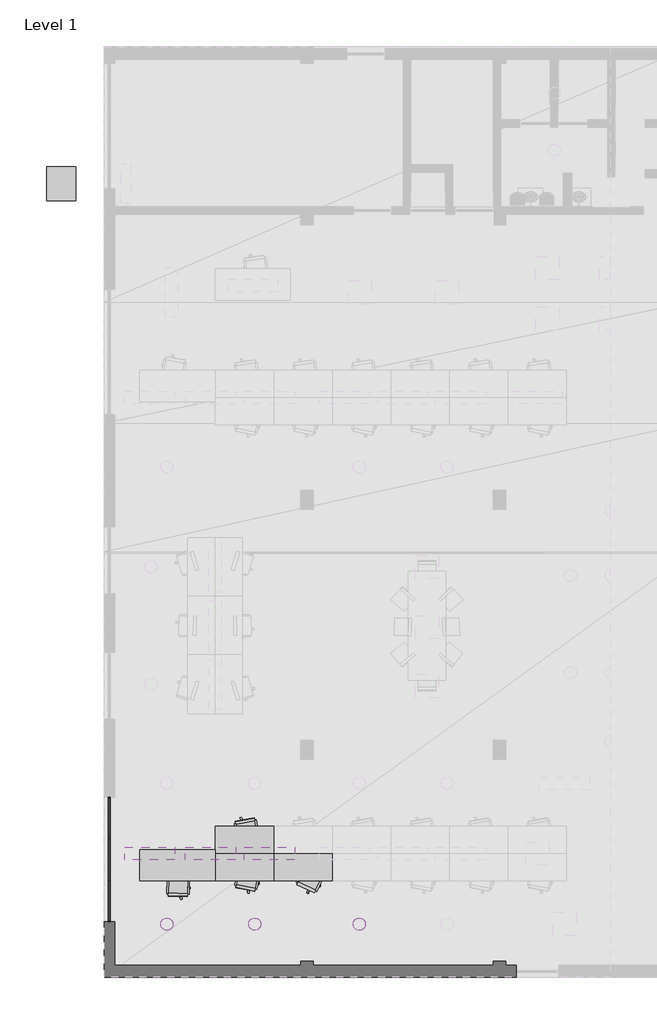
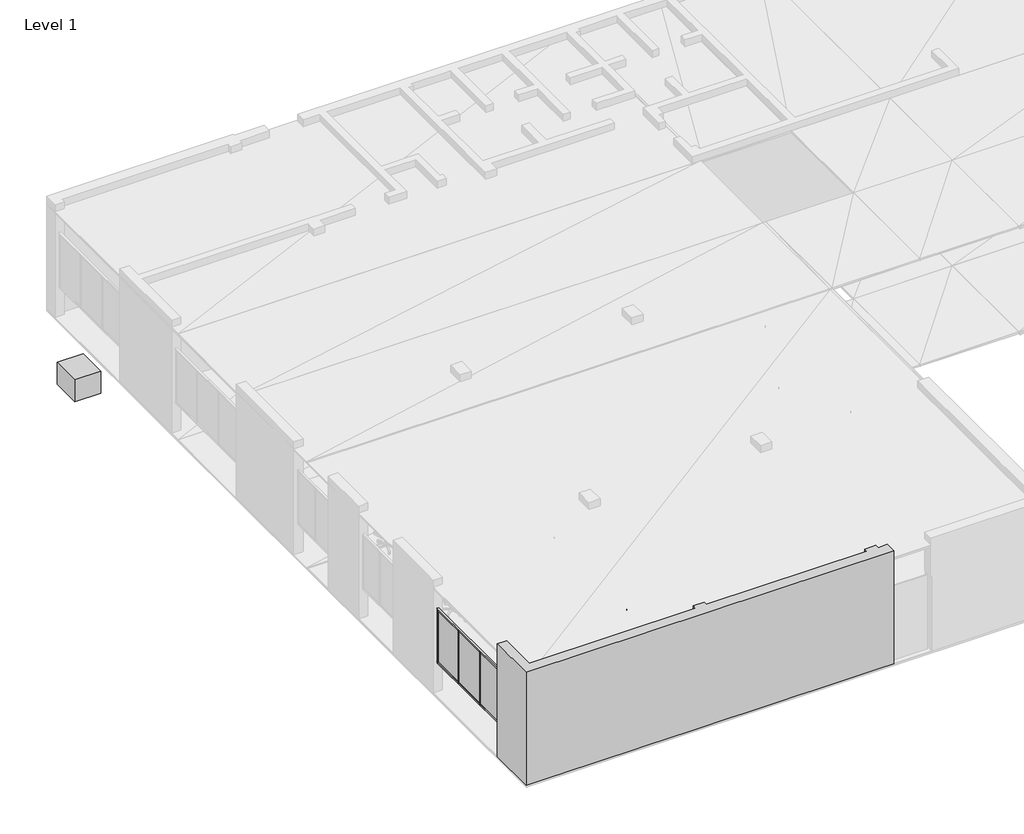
# One storey, part 1 of 14: 21 proxies.
"""IFC4 building model written with IfcOpenShell, lengths in millimetres."""

from ifc_helpers import new_model, si_unit, frame, origin, origin_with_axes, place, context, project, spatial, polyline, outline, extrude, element, save

model = new_model("IFC4")

# Units and contexts
model_context = context("Model", 3, world=origin())
ifc_project = project(units=[si_unit("LENGTHUNIT", "METRE", prefix="MILLI")], contexts=[model_context])

# Site, building, storey
site = spatial("IfcSite", under=ifc_project)
building = spatial("IfcBuilding", under=site)
storey = spatial("IfcBuildingStorey", under=building, Name="Level 1", Elevation=0.0)

# Proxies
placement = place(None, origin())
element("IfcBuildingElementProxy", 1, Name="Generic Models", at=placement, inside=storey, context=model_context, shape_type="SweptSolid", body=[
    extrude(outline(polyline([(2656.826019, 2957.967758), (4056.826115, 2957.967758), (4056.826115, 2307.967901), (2656.826019, 2307.967901), (2656.826019, 2957.967758)])), frame((0.0, 0.0, 709.999979), z_axis=(0.0, 0.0, 1.0), x_axis=(1.0, 0.0, 0.0)), (0.0, 0.0, 1.0), 40.000021),
])
element("IfcBuildingElementProxy", 2, Name="Generic Models", at=placement, inside=storey, context=model_context, shape_type="SweptSolid", body=[
    extrude(outline(polyline([(4056.826115, 2957.967758), (5456.82621, 2957.967758), (5456.82621, 2307.967901), (4056.826115, 2307.967901), (4056.826115, 2957.967758)])), frame((0.0, 0.0, 709.999979), z_axis=(0.0, 0.0, 1.0), x_axis=(1.0, 0.0, 0.0)), (0.0, 0.0, 1.0), 40.000021),
])
element("IfcBuildingElementProxy", 3, Name="Generic Models", at=placement, inside=storey, context=model_context, shape_type="SweptSolid", body=[
    extrude(outline(polyline([(2656.826019, 3607.967854), (4056.826115, 3607.967854), (4056.826115, 2957.967758), (2656.826019, 2957.967758), (2656.826019, 3607.967854)])), frame((0.0, 0.0, 709.999979), z_axis=(0.0, 0.0, 1.0), x_axis=(1.0, 0.0, 0.0)), (0.0, 0.0, 1.0), 40.000021),
])
element("IfcBuildingElementProxy", 4, Name="Generic Models", at=placement, inside=storey, context=model_context, shape_type="SweptSolid", body=[
    extrude(outline(polyline([(2656.826019, 2307.967901), (856.826067, 2307.967901), (856.826067, 3057.967901), (2656.826019, 3057.967901), (2656.826019, 2307.967901)])), frame((0.0, 0.0, 709.999979), z_axis=(0.0, 0.0, 1.0), x_axis=(1.0, 0.0, 0.0)), (0.0, 0.0, 1.0), 40.000021),
])
element("IfcBuildingElementProxy", 5, Name="Generic Models", at=placement, inside=storey, context=model_context, shape_type="SweptSolid", body=[
    extrude(outline(polyline([(6.826094, 1330.000401), (256.826103, 1330.000401), (256.826103, 290.000349), (4706.017494, 290.000349), (4706.017494, 390.000343), (5006.017685, 390.000343), (5006.017685, 290.000349), (9306.017876, 290.000349), (9306.017876, 390.000343), (9606.017113, 390.000343), (9606.017113, 290.000349), (9856.017113, 290.000349), (9856.017113, 0.00035), (6.826094, 0.00035), (6.826094, 1330.000401)])), origin_with_axes(), (0.0, 0.0, 1.0), 3200.000048),
])
element("IfcBuildingElementProxy", 6, Name="Generic Models", at=placement, inside=storey, context=model_context, shape_type="SweptSolid", body=[
    extrude(outline(polyline([(-1370.000005, 18559.999466), (-1370.000005, 19379.999161), (-669.999957, 19379.999161), (-669.999957, 18559.999466), (-1370.000005, 18559.999466)])), frame((0.0, 0.0, 90.000004), z_axis=(0.0, 0.0, 1.0), x_axis=(1.0, 0.0, 0.0)), (0.0, 0.0, 1.0), 620.000034),
])
element("IfcBuildingElementProxy", 7, Name="Generic Models", at=placement, inside=storey, context=model_context, shape_type="SweptSolid", body=[
    extrude(outline(polyline([(153.899997, 3304.166555), (108.900003, 3304.166555), (108.900003, 3329.166651), (153.899997, 3329.166651), (153.899997, 3304.166555)])), frame((0.0, 0.0, 850.000024), z_axis=(0.0, 0.0, 1.0), x_axis=(1.0, 0.0, 0.0)), (0.0, 0.0, 1.0), 1499.999881),
    extrude(outline(polyline([(153.899997, 2310.833216), (108.900003, 2310.833216), (108.900003, 2335.833311), (153.899997, 2335.833311), (153.899997, 2310.833216)])), frame((0.0, 0.0, 850.000024), z_axis=(0.0, 0.0, 1.0), x_axis=(1.0, 0.0, 0.0)), (0.0, 0.0, 1.0), 1499.999881),
    extrude(outline(polyline([(153.899997, 4267.499924), (108.900003, 4267.499924), (108.900003, 4312.5), (153.899997, 4312.5), (153.899997, 4267.499924)])), frame((0.0, 0.0, 850.000024), z_axis=(0.0, 0.0, 1.0), x_axis=(1.0, 0.0, 0.0)), (0.0, 0.0, 1.0), 1499.999881),
    extrude(outline(polyline([(153.899997, 1327.499986), (108.900003, 1327.499986), (108.900003, 1372.499943), (153.899997, 1372.499943), (153.899997, 1327.499986)])), frame((0.0, 0.0, 850.000024), z_axis=(0.0, 0.0, 1.0), x_axis=(1.0, 0.0, 0.0)), (0.0, 0.0, 1.0), 1499.999881),
    extrude(outline(polyline([(153.899997, 1330.000043), (108.900003, 1330.000043), (108.900003, 4309.999943), (153.899997, 4309.999943), (153.899997, 1330.000043)])), frame((0.0, 0.0, 2327.500105), z_axis=(0.0, 0.0, 1.0), x_axis=(1.0, 0.0, 0.0)), (0.0, 0.0, 1.0), 44.999838),
    extrude(outline(polyline([(153.899997, 1330.000043), (108.900003, 1330.000043), (108.900003, 4309.999943), (153.899997, 4309.999943), (153.899997, 1330.000043)])), frame((0.0, 0.0, 827.499986), z_axis=(0.0, 0.0, 1.0), x_axis=(1.0, 0.0, 0.0)), (0.0, 0.0, 1.0), 45.000016),
    extrude(outline(polyline([(140.400007, 1330.000043), (122.400001, 1330.000043), (122.400001, 4309.999943), (140.400007, 4309.999943), (140.400007, 1330.000043)])), frame((0.0, 0.0, 850.000024), z_axis=(0.0, 0.0, 1.0), x_axis=(1.0, 0.0, 0.0)), (0.0, 0.0, 1.0), 1499.999881),
])
element("IfcBuildingElementProxy", 8, Name="Generic Models", at=placement, inside=storey, context=model_context, shape_type="SweptSolid", body=[
    extrude(outline(polyline([(496.284008, 2807.967901), (496.284008, 3107.968092), (1696.284056, 3107.968092), (1696.284056, 2807.967901), (496.284008, 2807.967901)])), frame((0.0, 0.0, 2910.000086), z_axis=(0.0, 0.0, 1.0), x_axis=(1.0, 0.0, 0.0)), (0.0, 0.0, 1.0), 39.999962),
])
element("IfcBuildingElementProxy", 9, Name="Generic Models", at=placement, inside=storey, context=model_context, shape_type="SweptSolid", body=[
    extrude(outline(polyline([(1949.607015, 2807.967901), (1949.607015, 3107.968092), (3149.607182, 3107.968092), (3149.607182, 2807.967901), (1949.607015, 2807.967901)])), frame((0.0, 0.0, 2910.000086), z_axis=(0.0, 0.0, 1.0), x_axis=(1.0, 0.0, 0.0)), (0.0, 0.0, 1.0), 39.999962),
])
element("IfcBuildingElementProxy", 10, Name="Generic Models", at=placement, inside=storey, context=model_context, shape_type="SweptSolid", body=[
    extrude(outline(polyline([(3360.656738, 2807.967901), (3360.656738, 3107.968092), (4560.657024, 3107.968092), (4560.657024, 2807.967901), (3360.656738, 2807.967901)])), frame((0.0, 0.0, 2910.000086), z_axis=(0.0, 0.0, 1.0), x_axis=(1.0, 0.0, 0.0)), (0.0, 0.0, 1.0), 39.999962),
])
element("IfcBuildingElementProxy", 11, Name="Generic Models", at=placement, inside=storey, context=model_context, shape_type="SweptSolid", body=[
    extrude(outline(polyline([(6242.160797, 1217.591763), (6228.543282, 1192.115068), (6210.217476, 1169.784665), (6187.886715, 1151.458502), (6162.410259, 1137.840986), (6134.766579, 1129.455328), (6106.018066, 1126.623869), (6077.269554, 1129.455328), (6049.625874, 1137.840986), (6024.149418, 1151.458502), (6001.818657, 1169.784665), (5983.492851, 1192.115068), (5969.875336, 1217.591763), (5961.489677, 1245.235443), (5958.658218, 1273.983955), (5961.489677, 1302.732468), (5969.875336, 1330.376148), (5983.492851, 1355.852842), (6001.818657, 1378.183246), (6024.149418, 1396.509409), (6049.625874, 1410.126925), (6077.269554, 1418.512583), (6106.018066, 1421.344042), (6134.766579, 1418.512583), (6162.410259, 1410.126925), (6187.886715, 1396.509409), (6210.217476, 1378.183246), (6228.543282, 1355.852842), (6242.160797, 1330.376148), (6250.546455, 1302.732468), (6253.377914, 1273.983955), (6250.546455, 1245.235443), (6242.160797, 1217.591763)])), frame((0.0, 0.0, 2910.000086), z_axis=(0.0, 0.0, 1.0), x_axis=(1.0, 0.0, 0.0)), (0.0, 0.0, 1.0), 39.999962),
])
element("IfcBuildingElementProxy", 12, Name="Generic Models", at=placement, inside=storey, context=model_context, shape_type="SweptSolid", body=[
    extrude(outline(polyline([(3742.161036, 1217.591763), (3728.54352, 1192.115068), (3710.217476, 1169.784665), (3687.886953, 1151.458502), (3662.410259, 1137.840986), (3634.766579, 1129.455328), (3606.018066, 1126.623869), (3577.269554, 1129.455328), (3549.625874, 1137.840986), (3524.149179, 1151.458502), (3501.818657, 1169.784665), (3483.492613, 1192.115068), (3469.875097, 1217.591763), (3461.489439, 1245.235443), (3458.65798, 1273.983955), (3461.489439, 1302.732468), (3469.875097, 1330.376148), (3483.492613, 1355.852842), (3501.818657, 1378.183246), (3524.149179, 1396.509409), (3549.625874, 1410.126925), (3577.269554, 1418.512583), (3606.018066, 1421.344042), (3634.766579, 1418.512583), (3662.410259, 1410.126925), (3687.886953, 1396.509409), (3710.217476, 1378.183246), (3728.54352, 1355.852842), (3742.161036, 1330.376148), (3750.546694, 1302.732468), (3753.378153, 1273.983955), (3750.546694, 1245.235443), (3742.161036, 1217.591763)])), frame((0.0, 0.0, 2910.000086), z_axis=(0.0, 0.0, 1.0), x_axis=(1.0, 0.0, 0.0)), (0.0, 0.0, 1.0), 39.999962),
])
element("IfcBuildingElementProxy", 13, Name="Generic Models", at=placement, inside=storey, context=model_context, shape_type="SweptSolid", body=[
    extrude(outline(polyline([(1642.161012, 1217.591763), (1628.543496, 1192.115068), (1610.217333, 1169.784665), (1587.88693, 1151.458502), (1562.410355, 1137.840986), (1534.766555, 1129.455328), (1506.018043, 1126.623869), (1477.26953, 1129.455328), (1449.625731, 1137.840986), (1424.149156, 1151.458502), (1401.818752, 1169.784665), (1383.492589, 1192.115068), (1369.875073, 1217.591763), (1361.489415, 1245.235443), (1358.657956, 1273.983955), (1361.489415, 1302.732468), (1369.875073, 1330.376148), (1383.492589, 1355.852842), (1401.818752, 1378.183246), (1424.149156, 1396.509409), (1449.625731, 1410.126925), (1477.26953, 1418.512583), (1506.018043, 1421.344042), (1534.766555, 1418.512583), (1562.410355, 1410.126925), (1587.88693, 1396.509409), (1610.217333, 1378.183246), (1628.543496, 1355.852842), (1642.161012, 1330.376148), (1650.54667, 1302.732468), (1653.378129, 1273.983955), (1650.54667, 1245.235443), (1642.161012, 1217.591763)])), frame((0.0, 0.0, 2910.000086), z_axis=(0.0, 0.0, 1.0), x_axis=(1.0, 0.0, 0.0)), (0.0, 0.0, 1.0), 39.999962),
])
element("IfcBuildingElementProxy", 14, Name="Generic Models", at=placement, inside=storey, context=model_context, shape_type="SweptSolid", body=[
    extrude(outline(polyline([(4004.326344, 2382.967949), (3959.326029, 2382.967949), (3959.326029, 2882.96771), (4004.326344, 2882.96771), (4004.326344, 2382.967949)])), frame((0.0, 0.0, 639.999986), z_axis=(0.0, 0.0, 1.0), x_axis=(1.0, 0.0, 0.0)), (0.0, 0.0, 1.0), 69.999993),
    extrude(outline(polyline([(2754.326105, 2382.967949), (2709.326029, 2382.967949), (2709.326029, 2882.96771), (2754.326105, 2882.96771), (2754.326105, 2382.967949)])), frame((0.0, 0.0, 639.999986), z_axis=(0.0, 0.0, 1.0), x_axis=(1.0, 0.0, 0.0)), (0.0, 0.0, 1.0), 69.999993),
    extrude(outline(polyline([(2731.826067, 2860.467672), (2731.826067, 2905.467749), (3981.826067, 2905.467749), (3981.826067, 2860.467672), (2731.826067, 2860.467672)])), frame((0.0, 0.0, 639.999986), z_axis=(0.0, 0.0, 1.0), x_axis=(1.0, 0.0, 0.0)), (0.0, 0.0, 1.0), 69.999993),
    extrude(outline(polyline([(2731.826067, 2360.467911), (2731.826067, 2405.467987), (3981.826067, 2405.467987), (3981.826067, 2360.467911), (2731.826067, 2360.467911)])), frame((0.0, 0.0, 639.999986), z_axis=(0.0, 0.0, 1.0), x_axis=(1.0, 0.0, 0.0)), (0.0, 0.0, 1.0), 69.999993),
    extrude(outline(polyline([(3957.451105, 2858.592749), (3957.451105, 2907.342672), (4006.201267, 2907.342672), (4006.201267, 2858.592749), (3957.451105, 2858.592749)])), frame((0.0, 0.0, 50.000001), z_axis=(0.0, 0.0, 1.0), x_axis=(1.0, 0.0, 0.0)), (0.0, 0.0, 1.0), 659.999978),
    extrude(outline(polyline([(3957.451105, 2358.592987), (3957.451105, 2407.342911), (4006.201267, 2407.342911), (4006.201267, 2358.592987), (3957.451105, 2358.592987)])), frame((0.0, 0.0, 50.000001), z_axis=(0.0, 0.0, 1.0), x_axis=(1.0, 0.0, 0.0)), (0.0, 0.0, 1.0), 659.999978),
    extrude(outline(polyline([(2707.451105, 2858.592749), (2707.451105, 2907.342672), (2756.201029, 2907.342672), (2756.201029, 2858.592749), (2707.451105, 2858.592749)])), frame((0.0, 0.0, 50.000001), z_axis=(0.0, 0.0, 1.0), x_axis=(1.0, 0.0, 0.0)), (0.0, 0.0, 1.0), 659.999978),
    extrude(outline(polyline([(2707.451105, 2358.592987), (2707.451105, 2407.342911), (2756.201029, 2407.342911), (2756.201029, 2358.592987), (2707.451105, 2358.592987)])), frame((0.0, 0.0, 50.000001), z_axis=(0.0, 0.0, 1.0), x_axis=(1.0, 0.0, 0.0)), (0.0, 0.0, 1.0), 659.999978),
])
element("IfcBuildingElementProxy", 15, Name="Generic Models", at=placement, inside=storey, context=model_context, shape_type="SweptSolid", body=[
    extrude(outline(polyline([(2604.32601, 2382.967949), (2559.325933, 2382.967949), (2559.325933, 2982.967854), (2604.32601, 2982.967854), (2604.32601, 2382.967949)])), frame((0.0, 0.0, 639.999986), z_axis=(0.0, 0.0, 1.0), x_axis=(1.0, 0.0, 0.0)), (0.0, 0.0, 1.0), 69.999993),
    extrude(outline(polyline([(954.326093, 2382.967949), (909.326077, 2382.967949), (909.326077, 2982.967854), (954.326093, 2982.967854), (954.326093, 2382.967949)])), frame((0.0, 0.0, 639.999986), z_axis=(0.0, 0.0, 1.0), x_axis=(1.0, 0.0, 0.0)), (0.0, 0.0, 1.0), 69.999993),
    extrude(outline(polyline([(931.826055, 2960.467815), (931.826055, 3005.467892), (2581.825972, 3005.467892), (2581.825972, 2960.467815), (931.826055, 2960.467815)])), frame((0.0, 0.0, 639.999986), z_axis=(0.0, 0.0, 1.0), x_axis=(1.0, 0.0, 0.0)), (0.0, 0.0, 1.0), 69.999993),
    extrude(outline(polyline([(931.826055, 2360.467911), (931.826055, 2405.467987), (2581.825972, 2405.467987), (2581.825972, 2360.467911), (931.826055, 2360.467911)])), frame((0.0, 0.0, 639.999986), z_axis=(0.0, 0.0, 1.0), x_axis=(1.0, 0.0, 0.0)), (0.0, 0.0, 1.0), 69.999993),
    extrude(outline(polyline([(2556.826115, 2957.967997), (2556.826115, 3007.967949), (2606.826067, 3007.967949), (2606.826067, 2957.967997), (2556.826115, 2957.967997)])), frame((0.0, 0.0, 50.000001), z_axis=(0.0, 0.0, 1.0), x_axis=(1.0, 0.0, 0.0)), (0.0, 0.0, 1.0), 659.999978),
    extrude(outline(polyline([(2556.826115, 2357.967854), (2556.826115, 2407.967806), (2606.826067, 2407.967806), (2606.826067, 2357.967854), (2556.826115, 2357.967854)])), frame((0.0, 0.0, 50.000001), z_axis=(0.0, 0.0, 1.0), x_axis=(1.0, 0.0, 0.0)), (0.0, 0.0, 1.0), 659.999978),
    extrude(outline(polyline([(906.826079, 2957.967997), (906.826079, 3007.967949), (956.826091, 3007.967949), (956.826091, 2957.967997), (906.826079, 2957.967997)])), frame((0.0, 0.0, 50.000001), z_axis=(0.0, 0.0, 1.0), x_axis=(1.0, 0.0, 0.0)), (0.0, 0.0, 1.0), 659.999978),
    extrude(outline(polyline([(906.826079, 2357.967854), (906.826079, 2407.967806), (956.826091, 2407.967806), (956.826091, 2357.967854), (906.826079, 2357.967854)])), frame((0.0, 0.0, 50.000001), z_axis=(0.0, 0.0, 1.0), x_axis=(1.0, 0.0, 0.0)), (0.0, 0.0, 1.0), 659.999978),
])
element("IfcBuildingElementProxy", 16, Name="Generic Models", at=placement, inside=storey, context=model_context, shape_type="SweptSolid", body=[
    extrude(outline(polyline([(5404.326439, 2382.967949), (5359.326363, 2382.967949), (5359.326363, 2882.96771), (5404.326439, 2882.96771), (5404.326439, 2382.967949)])), frame((0.0, 0.0, 639.999986), z_axis=(0.0, 0.0, 1.0), x_axis=(1.0, 0.0, 0.0)), (0.0, 0.0, 1.0), 69.999993),
    extrude(outline(polyline([(4154.325962, 2382.967949), (4109.325886, 2382.967949), (4109.325886, 2882.96771), (4154.325962, 2882.96771), (4154.325962, 2382.967949)])), frame((0.0, 0.0, 639.999986), z_axis=(0.0, 0.0, 1.0), x_axis=(1.0, 0.0, 0.0)), (0.0, 0.0, 1.0), 69.999993),
    extrude(outline(polyline([(4131.825924, 2860.467672), (4131.825924, 2905.467749), (5381.826401, 2905.467749), (5381.826401, 2860.467672), (4131.825924, 2860.467672)])), frame((0.0, 0.0, 639.999986), z_axis=(0.0, 0.0, 1.0), x_axis=(1.0, 0.0, 0.0)), (0.0, 0.0, 1.0), 69.999993),
    extrude(outline(polyline([(4131.825924, 2360.467911), (4131.825924, 2405.467987), (5381.826401, 2405.467987), (5381.826401, 2360.467911), (4131.825924, 2360.467911)])), frame((0.0, 0.0, 639.999986), z_axis=(0.0, 0.0, 1.0), x_axis=(1.0, 0.0, 0.0)), (0.0, 0.0, 1.0), 69.999993),
    extrude(outline(polyline([(5357.451439, 2858.592749), (5357.451439, 2907.342672), (5406.201363, 2907.342672), (5406.201363, 2858.592749), (5357.451439, 2858.592749)])), frame((0.0, 0.0, 50.000001), z_axis=(0.0, 0.0, 1.0), x_axis=(1.0, 0.0, 0.0)), (0.0, 0.0, 1.0), 659.999978),
    extrude(outline(polyline([(5357.451439, 2358.592987), (5357.451439, 2407.342911), (5406.201363, 2407.342911), (5406.201363, 2358.592987), (5357.451439, 2358.592987)])), frame((0.0, 0.0, 50.000001), z_axis=(0.0, 0.0, 1.0), x_axis=(1.0, 0.0, 0.0)), (0.0, 0.0, 1.0), 659.999978),
    extrude(outline(polyline([(4107.450962, 2858.592749), (4107.450962, 2907.342672), (4156.200886, 2907.342672), (4156.200886, 2858.592749), (4107.450962, 2858.592749)])), frame((0.0, 0.0, 50.000001), z_axis=(0.0, 0.0, 1.0), x_axis=(1.0, 0.0, 0.0)), (0.0, 0.0, 1.0), 659.999978),
    extrude(outline(polyline([(4107.450962, 2358.592987), (4107.450962, 2407.342911), (4156.200886, 2407.342911), (4156.200886, 2358.592987), (4107.450962, 2358.592987)])), frame((0.0, 0.0, 50.000001), z_axis=(0.0, 0.0, 1.0), x_axis=(1.0, 0.0, 0.0)), (0.0, 0.0, 1.0), 659.999978),
])
element("IfcBuildingElementProxy", 17, Name="Generic Models", at=placement, inside=storey, context=model_context, shape_type="SweptSolid", body=[
    extrude(outline(polyline([(4004.326344, 3032.967806), (3959.326029, 3032.967806), (3959.326029, 3532.967806), (4004.326344, 3532.967806), (4004.326344, 3032.967806)])), frame((0.0, 0.0, 639.999986), z_axis=(0.0, 0.0, 1.0), x_axis=(1.0, 0.0, 0.0)), (0.0, 0.0, 1.0), 69.999993),
    extrude(outline(polyline([(2754.326105, 3032.967806), (2709.326029, 3032.967806), (2709.326029, 3532.967806), (2754.326105, 3532.967806), (2754.326105, 3032.967806)])), frame((0.0, 0.0, 639.999986), z_axis=(0.0, 0.0, 1.0), x_axis=(1.0, 0.0, 0.0)), (0.0, 0.0, 1.0), 69.999993),
    extrude(outline(polyline([(2731.826067, 3510.467768), (2731.826067, 3555.467844), (3981.826067, 3555.467844), (3981.826067, 3510.467768), (2731.826067, 3510.467768)])), frame((0.0, 0.0, 639.999986), z_axis=(0.0, 0.0, 1.0), x_axis=(1.0, 0.0, 0.0)), (0.0, 0.0, 1.0), 69.999993),
    extrude(outline(polyline([(2731.826067, 3010.467768), (2731.826067, 3055.467844), (3981.826067, 3055.467844), (3981.826067, 3010.467768), (2731.826067, 3010.467768)])), frame((0.0, 0.0, 639.999986), z_axis=(0.0, 0.0, 1.0), x_axis=(1.0, 0.0, 0.0)), (0.0, 0.0, 1.0), 69.999993),
    extrude(outline(polyline([(3957.451105, 3508.592844), (3957.451105, 3557.342768), (4006.201267, 3557.342768), (4006.201267, 3508.592844), (3957.451105, 3508.592844)])), frame((0.0, 0.0, 50.000001), z_axis=(0.0, 0.0, 1.0), x_axis=(1.0, 0.0, 0.0)), (0.0, 0.0, 1.0), 659.999978),
    extrude(outline(polyline([(3957.451105, 3008.592844), (3957.451105, 3057.342768), (4006.201267, 3057.342768), (4006.201267, 3008.592844), (3957.451105, 3008.592844)])), frame((0.0, 0.0, 50.000001), z_axis=(0.0, 0.0, 1.0), x_axis=(1.0, 0.0, 0.0)), (0.0, 0.0, 1.0), 659.999978),
    extrude(outline(polyline([(2707.451105, 3508.592844), (2707.451105, 3557.342768), (2756.201029, 3557.342768), (2756.201029, 3508.592844), (2707.451105, 3508.592844)])), frame((0.0, 0.0, 50.000001), z_axis=(0.0, 0.0, 1.0), x_axis=(1.0, 0.0, 0.0)), (0.0, 0.0, 1.0), 659.999978),
    extrude(outline(polyline([(2707.451105, 3008.592844), (2707.451105, 3057.342768), (2756.201029, 3057.342768), (2756.201029, 3008.592844), (2707.451105, 3008.592844)])), frame((0.0, 0.0, 50.000001), z_axis=(0.0, 0.0, 1.0), x_axis=(1.0, 0.0, 0.0)), (0.0, 0.0, 1.0), 659.999978),
])
element("IfcBuildingElementProxy", 18, Name="Generic Models", at=placement, inside=storey, context=model_context, shape_type="SweptSolid", body=[
    extrude(outline(polyline([(3178.252459, 3524.032831), (3183.70986, 3494.5333), (3154.210329, 3489.075899), (3148.752928, 3518.57543), (3178.252459, 3524.032831)])), frame((0.0, 0.0, 439.999998), z_axis=(0.0, 0.0, 1.0), x_axis=(1.0, 0.0, 0.0)), (0.0, 0.0, 1.0), 199.999988),
    extrude(outline(polyline([(3152.514458, 3676.90134), (3214.364529, 3342.574358), (3179.948568, 3336.20739), (3118.098259, 3670.534372), (3152.514458, 3676.90134)])), frame((0.0, 0.0, 612.500012), z_axis=(0.0, 0.0, 1.0), x_axis=(1.0, 0.0, 0.0)), (0.0, 0.0, 1.0), 34.999967),
    extrude(outline(polyline([(3213.246346, 3705.933571), (3217.79418, 3681.350708), (3193.211317, 3676.802874), (3188.663483, 3701.385736), (3213.246346, 3705.933571)])), frame((0.0, 0.0, 460.000008), z_axis=(0.0, 0.0, 1.0), x_axis=(1.0, 0.0, 0.0)), (0.0, 0.0, 1.0), 400.000006),
    extrude(outline(polyline([(3669.909954, 3614.988804), (3675.367117, 3585.489511), (3645.867825, 3580.03211), (3640.410423, 3609.531403), (3669.909954, 3614.988804)])), frame((0.0, 0.0, 439.999998), z_axis=(0.0, 0.0, 1.0), x_axis=(1.0, 0.0, 0.0)), (0.0, 0.0, 1.0), 199.999988),
    extrude(outline(polyline([(3644.171715, 3767.857552), (3706.022024, 3433.530331), (3671.605825, 3427.163601), (3609.755754, 3761.490583), (3644.171715, 3767.857552)])), frame((0.0, 0.0, 612.500012), z_axis=(0.0, 0.0, 1.0), x_axis=(1.0, 0.0, 0.0)), (0.0, 0.0, 1.0), 34.999967),
    extrude(outline(polyline([(3567.239761, 3771.421909), (3571.787357, 3746.839046), (3547.204494, 3742.291451), (3542.656898, 3766.874313), (3567.239761, 3771.421909)])), frame((0.0, 0.0, 460.000008), z_axis=(0.0, 0.0, 1.0), x_axis=(1.0, 0.0, 0.0)), (0.0, 0.0, 1.0), 400.000006),
    extrude(outline(polyline([(3598.201752, 3810.201406), (3610.935688, 3741.369486), (3158.610821, 3657.68981), (3145.877123, 3726.52173), (3598.201752, 3810.201406)])), frame((0.0, 0.0, 460.000008), z_axis=(0.0, 0.0, 1.0), x_axis=(1.0, 0.0, 0.0)), (0.0, 0.0, 1.0), 479.99999),
    extrude(outline(polyline([(3597.292185, 3815.118074), (3673.695326, 3402.125835), (3221.370697, 3318.446159), (3144.967556, 3731.438398), (3597.292185, 3815.118074)])), frame((0.0, 0.0, 400.000006), z_axis=(0.0, 0.0, 1.0), x_axis=(1.0, 0.0, 0.0)), (0.0, 0.0, 1.0), 69.999993),
    extrude(outline(polyline([(3426.831484, 3536.471128), (3409.331322, 3531.78215), (3391.831398, 3536.471128), (3379.020452, 3549.282074), (3374.331474, 3566.781998), (3379.020452, 3584.28216), (3391.831398, 3597.093105), (3409.331322, 3601.782084), (3426.831484, 3597.093105), (3439.642429, 3584.28216), (3444.331408, 3566.781998), (3439.642429, 3549.282074), (3426.831484, 3536.471128)])), frame((0.0, 0.0, 115.000002), z_axis=(0.0, 0.0, 1.0), x_axis=(1.0, 0.0, 0.0)), (0.0, 0.0, 1.0), 280.000009),
    extrude(outline(polyline([(3315.851688, 3786.267996), (3276.298046, 3764.808893), (3250.070095, 3813.152313), (3289.623976, 3834.611654), (3315.851688, 3786.267996)])), frame((0.0, 0.0, 35.0), z_axis=(0.0, 0.0, 1.0), x_axis=(1.0, 0.0, 0.0)), (0.0, 0.0, 1.0), 59.999999),
    extrude(outline(polyline([(3427.097797, 3570.732355), (3396.333694, 3554.042101), (3253.272772, 3817.734241), (3284.036875, 3834.424734), (3427.097797, 3570.732355)])), frame((0.0, 0.0, 82.500003), z_axis=(0.0, 0.0, 1.0), x_axis=(1.0, 0.0, 0.0)), (0.0, 0.0, 1.0), 34.999997),
    extrude(outline(polyline([(3589.188099, 3723.511457), (3556.556463, 3754.498005), (3594.429016, 3794.38138), (3627.060652, 3763.394594), (3589.188099, 3723.511457)])), frame((0.0, 0.0, 35.0), z_axis=(0.0, 0.0, 1.0), x_axis=(1.0, 0.0, 0.0)), (0.0, 0.0, 1.0), 59.999999),
    extrude(outline(polyline([(3418.578625, 3551.105976), (3393.19849, 3575.206757), (3599.776268, 3792.751074), (3625.156403, 3768.650293), (3418.578625, 3551.105976)])), frame((0.0, 0.0, 82.500003), z_axis=(0.0, 0.0, 1.0), x_axis=(1.0, 0.0, 0.0)), (0.0, 0.0, 1.0), 34.999997),
    extrude(outline(polyline([(3613.968611, 3444.160223), (3633.354902, 3484.770298), (3682.989359, 3461.075783), (3663.603067, 3420.465946), (3613.968611, 3444.160223)])), frame((0.0, 0.0, 35.0), z_axis=(0.0, 0.0, 1.0), x_axis=(1.0, 0.0, 0.0)), (0.0, 0.0, 1.0), 59.999999),
    extrude(outline(polyline([(3397.279978, 3553.143501), (3412.358284, 3584.728956), (3683.091402, 3455.486536), (3668.013096, 3423.901081), (3397.279978, 3553.143501)])), frame((0.0, 0.0, 82.500003), z_axis=(0.0, 0.0, 1.0), x_axis=(1.0, 0.0, 0.0)), (0.0, 0.0, 1.0), 34.999997),
    extrude(outline(polyline([(3355.947495, 3334.268332), (3400.560617, 3328.380108), (3393.363714, 3273.852825), (3348.750591, 3279.741287), (3355.947495, 3334.268332)])), frame((0.0, 0.0, 35.0), z_axis=(0.0, 0.0, 1.0), x_axis=(1.0, 0.0, 0.0)), (0.0, 0.0, 1.0), 59.999999),
    extrude(outline(polyline([(3392.636061, 3574.028969), (3427.335262, 3569.449186), (3388.079643, 3272.028685), (3353.380442, 3276.608467), (3392.636061, 3574.028969)])), frame((0.0, 0.0, 82.500003), z_axis=(0.0, 0.0, 1.0), x_axis=(1.0, 0.0, 0.0)), (0.0, 0.0, 1.0), 34.999997),
    extrude(outline(polyline([(3171.701193, 3545.702457), (3179.887295, 3501.4534), (3125.804901, 3491.448164), (3117.618799, 3535.69746), (3171.701193, 3545.702457)])), frame((0.0, 0.0, 35.0), z_axis=(0.0, 0.0, 1.0), x_axis=(1.0, 0.0, 0.0)), (0.0, 0.0, 1.0), 59.999999),
    extrude(outline(polyline([(3411.064625, 3584.899664), (3417.431593, 3550.483704), (3122.437, 3495.909929), (3116.070032, 3530.32589), (3411.064625, 3584.899664)])), frame((0.0, 0.0, 82.500003), z_axis=(0.0, 0.0, 1.0), x_axis=(1.0, 0.0, 0.0)), (0.0, 0.0, 1.0), 34.999997),
])
element("IfcBuildingElementProxy", 19, Name="Generic Models", at=placement, inside=storey, context=model_context, shape_type="SweptSolid", body=[
    extrude(outline(polyline([(2008.397341, 2140.478373), (2009.33218, 2170.4638), (2039.317608, 2169.528961), (2038.382769, 2139.543533), (2008.397341, 2140.478373)])), frame((0.0, 0.0, 439.999998), z_axis=(0.0, 0.0, 1.0), x_axis=(1.0, 0.0, 0.0)), (0.0, 0.0, 1.0), 199.999988),
    extrude(outline(polyline([(2001.068354, 1985.631585), (2011.663675, 2325.466394), (2046.646833, 2324.375868), (2036.051273, 1984.540939), (2001.068354, 1985.631585)])), frame((0.0, 0.0, 612.500012), z_axis=(0.0, 0.0, 1.0), x_axis=(1.0, 0.0, 0.0)), (0.0, 0.0, 1.0), 34.999967),
    extrude(outline(polyline([(1935.554504, 1970.16573), (1936.333656, 1995.153546), (1961.321473, 1994.374514), (1960.54244, 1969.386697), (1935.554504, 1970.16573)])), frame((0.0, 0.0, 460.000008), z_axis=(0.0, 0.0, 1.0), x_axis=(1.0, 0.0, 0.0)), (0.0, 0.0, 1.0), 400.000006),
    extrude(outline(polyline([(1508.640289, 2156.05998), (1509.575129, 2186.045408), (1539.560556, 2185.110569), (1538.625717, 2155.125141), (1508.640289, 2156.05998)])), frame((0.0, 0.0, 439.999998), z_axis=(0.0, 0.0, 1.0), x_axis=(1.0, 0.0, 0.0)), (0.0, 0.0, 1.0), 199.999988),
    extrude(outline(polyline([(1501.311183, 2001.213074), (1511.906624, 2341.048002), (1546.889663, 2339.957237), (1536.294222, 2000.122547), (1501.311183, 2001.213074)])), frame((0.0, 0.0, 612.500012), z_axis=(0.0, 0.0, 1.0), x_axis=(1.0, 0.0, 0.0)), (0.0, 0.0, 1.0), 34.999967),
    extrude(outline(polyline([(1575.72937, 1981.384397), (1576.508522, 2006.372213), (1601.496339, 2005.5933), (1600.717306, 1980.605364), (1575.72937, 1981.384397)])), frame((0.0, 0.0, 460.000008), z_axis=(0.0, 0.0, 1.0), x_axis=(1.0, 0.0, 0.0)), (0.0, 0.0, 1.0), 400.000006),
    extrude(outline(polyline([(1537.234783, 1950.068831), (1539.416194, 2020.03479), (1999.192834, 2005.699873), (1997.011423, 1935.733795), (1537.234783, 1950.068831)])), frame((0.0, 0.0, 460.000008), z_axis=(0.0, 0.0, 1.0), x_axis=(1.0, 0.0, 0.0)), (0.0, 0.0, 1.0), 479.99999),
    extrude(outline(polyline([(1537.078977, 1945.07122), (1550.167441, 2364.86721), (2009.943962, 2350.532293), (1996.855617, 1930.736303), (1537.078977, 1945.07122)])), frame((0.0, 0.0, 400.000006), z_axis=(0.0, 0.0, 1.0), x_axis=(1.0, 0.0, 0.0)), (0.0, 0.0, 1.0), 69.999993),
    extrude(outline(polyline([(1791.011572, 2117.490768), (1773.511529, 2112.80179), (1756.011486, 2117.490768), (1743.20066, 2130.301714), (1738.511562, 2147.801876), (1743.20066, 2165.3018), (1756.011486, 2178.112745), (1773.511529, 2182.801723), (1791.011572, 2178.112745), (1803.822398, 2165.3018), (1808.511496, 2147.801876), (1803.822398, 2130.301714), (1791.011572, 2117.490768)])), frame((0.0, 0.0, 115.000002), z_axis=(0.0, 0.0, 1.0), x_axis=(1.0, 0.0, 0.0)), (0.0, 0.0, 1.0), 280.000009),
    extrude(outline(polyline([(1818.223357, 1913.465738), (1861.433506, 1926.031113), (1876.79112, 1873.218775), (1833.580971, 1860.6534), (1818.223357, 1913.465738)])), frame((0.0, 0.0, 35.0), z_axis=(0.0, 0.0, 1.0), x_axis=(1.0, 0.0, 0.0)), (0.0, 0.0, 1.0), 59.999999),
    extrude(outline(polyline([(1755.311489, 2147.716284), (1788.91933, 2157.4893), (1872.688055, 1869.422078), (1839.080215, 1859.649062), (1755.311489, 2147.716284)])), frame((0.0, 0.0, 82.500003), z_axis=(0.0, 0.0, 1.0), x_axis=(1.0, 0.0, 0.0)), (0.0, 0.0, 1.0), 34.999997),
    extrude(outline(polyline([(1564.46147, 2032.864332), (1589.764476, 1995.65208), (1544.282675, 1964.72621), (1518.979788, 2001.938581), (1564.46147, 2032.864332)])), frame((0.0, 0.0, 35.0), z_axis=(0.0, 0.0, 1.0), x_axis=(1.0, 0.0, 0.0)), (0.0, 0.0, 1.0), 59.999999),
    extrude(outline(polyline([(1767.806172, 2165.0846), (1787.486315, 2136.141777), (1539.403915, 1967.455268), (1519.723773, 1996.398211), (1767.806172, 2165.0846)])), frame((0.0, 0.0, 82.500003), z_axis=(0.0, 0.0, 1.0), x_axis=(1.0, 0.0, 0.0)), (0.0, 0.0, 1.0), 34.999997),
    extrude(outline(polyline([(1599.5996, 2311.102629), (1572.027683, 2275.538683), (1528.560758, 2309.237957), (1556.132793, 2344.801664), (1599.5996, 2311.102629)])), frame((0.0, 0.0, 35.0), z_axis=(0.0, 0.0, 1.0), x_axis=(1.0, 0.0, 0.0)), (0.0, 0.0, 1.0), 59.999999),
    extrude(outline(polyline([(1788.185477, 2158.568621), (1766.740561, 2130.907774), (1529.648542, 2314.721107), (1551.093459, 2342.381954), (1788.185477, 2158.568621)])), frame((0.0, 0.0, 82.500003), z_axis=(0.0, 0.0, 1.0), x_axis=(1.0, 0.0, 0.0)), (0.0, 0.0, 1.0), 34.999997),
    extrude(outline(polyline([(1875.078082, 2363.664627), (1832.734704, 2378.89719), (1851.352453, 2430.650234), (1893.695831, 2415.417671), (1875.078082, 2363.664627)])), frame((0.0, 0.0, 35.0), z_axis=(0.0, 0.0, 1.0), x_axis=(1.0, 0.0, 0.0)), (0.0, 0.0, 1.0), 59.999999),
    extrude(outline(polyline([(1788.285851, 2137.173176), (1755.352139, 2149.020672), (1856.903553, 2431.310177), (1889.837265, 2419.462442), (1788.285851, 2137.173176)])), frame((0.0, 0.0, 82.500003), z_axis=(0.0, 0.0, 1.0), x_axis=(1.0, 0.0, 0.0)), (0.0, 0.0, 1.0), 34.999997),
    extrude(outline(polyline([(2010.195017, 2117.911577), (2011.597395, 2162.889719), (2066.57052, 2161.175728), (2065.168381, 2116.197586), (2010.195017, 2117.911577)])), frame((0.0, 0.0, 35.0), z_axis=(0.0, 0.0, 1.0), x_axis=(1.0, 0.0, 0.0)), (0.0, 0.0, 1.0), 59.999999),
    extrude(outline(polyline([(1767.968655, 2130.465984), (1769.0593, 2165.449142), (2068.913698, 2156.100273), (2067.822933, 2121.117115), (1767.968655, 2130.465984)])), frame((0.0, 0.0, 82.500003), z_axis=(0.0, 0.0, 1.0), x_axis=(1.0, 0.0, 0.0)), (0.0, 0.0, 1.0), 34.999997),
])
element("IfcBuildingElementProxy", 20, Name="Generic Models", at=placement, inside=storey, context=model_context, shape_type="SweptSolid", body=[
    extrude(outline(polyline([(5122.096062, 2207.995176), (5134.83429, 2235.156775), (5161.995411, 2222.418785), (5149.25766, 2195.257425), (5122.096062, 2207.995176)])), frame((0.0, 0.0, 439.999998), z_axis=(0.0, 0.0, 1.0), x_axis=(1.0, 0.0, 0.0)), (0.0, 0.0, 1.0), 199.999988),
    extrude(outline(polyline([(5054.020405, 2068.722486), (5198.383331, 2376.552582), (5230.071545, 2361.691713), (5085.708618, 2053.861618), (5054.020405, 2068.722486)])), frame((0.0, 0.0, 612.500012), z_axis=(0.0, 0.0, 1.0), x_axis=(1.0, 0.0, 0.0)), (0.0, 0.0, 1.0), 34.999967),
    extrude(outline(polyline([(4987.74004, 2080.476999), (4998.354912, 2103.111506), (5020.989418, 2092.496634), (5010.374546, 2069.862127), (4987.74004, 2080.476999)])), frame((0.0, 0.0, 460.000008), z_axis=(0.0, 0.0, 1.0), x_axis=(1.0, 0.0, 0.0)), (0.0, 0.0, 1.0), 400.000006),
    extrude(outline(polyline([(4669.404984, 2420.293331), (4682.142735, 2447.454929), (4709.304333, 2434.71694), (4696.566582, 2407.55558), (4669.404984, 2420.293331)])), frame((0.0, 0.0, 439.999998), z_axis=(0.0, 0.0, 1.0), x_axis=(1.0, 0.0, 0.0)), (0.0, 0.0, 1.0), 199.999988),
    extrude(outline(polyline([(4601.32885, 2281.020641), (4745.691776, 2588.850737), (4777.37999, 2573.989868), (4633.01754, 2266.159773), (4601.32885, 2281.020641)])), frame((0.0, 0.0, 612.500012), z_axis=(0.0, 0.0, 1.0), x_axis=(1.0, 0.0, 0.0)), (0.0, 0.0, 1.0), 34.999967),
    extrude(outline(polyline([(4661.802292, 2233.33168), (4672.417164, 2255.966187), (4695.05167, 2245.351315), (4684.436798, 2222.716808), (4661.802292, 2233.33168)])), frame((0.0, 0.0, 460.000008), z_axis=(0.0, 0.0, 1.0), x_axis=(1.0, 0.0, 0.0)), (0.0, 0.0, 1.0), 400.000006),
    extrude(outline(polyline([(4614.050865, 2219.829082), (4643.772602, 2283.205986), (5060.248852, 2087.891579), (5030.527115, 2024.514675), (4614.050865, 2219.829082)])), frame((0.0, 0.0, 460.000008), z_axis=(0.0, 0.0, 1.0), x_axis=(1.0, 0.0, 0.0)), (0.0, 0.0, 1.0), 479.99999),
    extrude(outline(polyline([(4611.927986, 2215.302229), (4790.258408, 2595.562935), (5206.734657, 2400.248528), (5028.404236, 2019.987822), (4611.927986, 2215.302229)])), frame((0.0, 0.0, 400.000006), z_axis=(0.0, 0.0, 1.0), x_axis=(1.0, 0.0, 0.0)), (0.0, 0.0, 1.0), 69.999993),
    extrude(outline(polyline([(4926.831245, 2277.46439), (4909.331322, 2272.775412), (4891.831398, 2277.46439), (4879.020214, 2290.275335), (4874.331474, 2307.775497), (4879.020214, 2325.275421), (4891.831398, 2338.086367), (4909.331322, 2342.775345), (4926.831245, 2338.086367), (4939.642429, 2325.275421), (4944.331169, 2307.775497), (4939.642429, 2290.275335), (4926.831245, 2277.46439)])), frame((0.0, 0.0, 115.000002), z_axis=(0.0, 0.0, 1.0), x_axis=(1.0, 0.0, 0.0)), (0.0, 0.0, 1.0), 280.000009),
    extrude(outline(polyline([(4857.546329, 2074.90015), (4902.198792, 2069.318533), (4895.376682, 2014.743328), (4850.72422, 2020.324945), (4857.546329, 2074.90015)])), frame((0.0, 0.0, 35.0), z_axis=(0.0, 0.0, 1.0), x_axis=(1.0, 0.0, 0.0)), (0.0, 0.0, 1.0), 59.999999),
    extrude(outline(polyline([(4892.586708, 2314.907312), (4927.316189, 2310.566187), (4890.105247, 2012.882948), (4855.375767, 2017.224073), (4892.586708, 2314.907312)])), frame((0.0, 0.0, 82.500003), z_axis=(0.0, 0.0, 1.0), x_axis=(1.0, 0.0, 0.0)), (0.0, 0.0, 1.0), 34.999997),
    extrude(outline(polyline([(4671.851635, 2285.063505), (4680.341244, 2240.871429), (4626.328945, 2230.494976), (4617.839336, 2274.686813), (4671.851635, 2285.063505)])), frame((0.0, 0.0, 35.0), z_axis=(0.0, 0.0, 1.0), x_axis=(1.0, 0.0, 0.0)), (0.0, 0.0, 1.0), 59.999999),
    extrude(outline(polyline([(4910.939693, 2325.904369), (4917.542934, 2291.532993), (4622.930527, 2234.933615), (4616.327286, 2269.304991), (4910.939693, 2325.904369)])), frame((0.0, 0.0, 82.500003), z_axis=(0.0, 0.0, 1.0), x_axis=(1.0, 0.0, 0.0)), (0.0, 0.0, 1.0), 34.999997),
    extrude(outline(polyline([(4814.345837, 2526.613712), (4774.940014, 2504.883289), (4748.380661, 2553.045511), (4787.786007, 2574.775934), (4814.345837, 2526.613712)])), frame((0.0, 0.0, 35.0), z_axis=(0.0, 0.0, 1.0), x_axis=(1.0, 0.0, 0.0)), (0.0, 0.0, 1.0), 59.999999),
    extrude(outline(polyline([(4927.070141, 2311.847687), (4896.421432, 2294.946194), (4751.552105, 2557.649136), (4782.200813, 2574.550629), (4927.070141, 2311.847687)])), frame((0.0, 0.0, 82.500003), z_axis=(0.0, 0.0, 1.0), x_axis=(1.0, 0.0, 0.0)), (0.0, 0.0, 1.0), 34.999997),
    extrude(outline(polyline([(5088.106632, 2465.736866), (5055.263042, 2496.498585), (5092.860699, 2536.641121), (5125.704288, 2505.879402), (5088.106632, 2465.736866)])), frame((0.0, 0.0, 35.0), z_axis=(0.0, 0.0, 1.0), x_axis=(1.0, 0.0, 0.0)), (0.0, 0.0, 1.0), 59.999999),
    extrude(outline(polyline([(4918.685913, 2292.163134), (4893.140793, 2316.088915), (5098.218918, 2535.04777), (5123.764038, 2511.121988), (4918.685913, 2292.163134)])), frame((0.0, 0.0, 82.500003), z_axis=(0.0, 0.0, 1.0), x_axis=(1.0, 0.0, 0.0)), (0.0, 0.0, 1.0), 34.999997),
    extrude(outline(polyline([(5114.806175, 2186.562538), (5133.91304, 2227.304935), (5183.709145, 2203.952074), (5164.60228, 2163.209915), (5114.806175, 2186.562538)])), frame((0.0, 0.0, 35.0), z_axis=(0.0, 0.0, 1.0), x_axis=(1.0, 0.0, 0.0)), (0.0, 0.0, 1.0), 59.999999),
    extrude(outline(polyline([(4897.374153, 2294.05427), (4912.234783, 2325.742483), (5183.849812, 2198.363543), (5168.988705, 2166.675329), (4897.374153, 2294.05427)])), frame((0.0, 0.0, 82.500003), z_axis=(0.0, 0.0, 1.0), x_axis=(1.0, 0.0, 0.0)), (0.0, 0.0, 1.0), 34.999997),
])
element("IfcBuildingElementProxy", 21, Name="Generic Models", at=placement, inside=storey, context=model_context, shape_type="SweptSolid", body=[
    extrude(outline(polyline([(3653.407574, 2260.814905), (3659.402609, 2290.20977), (3688.797474, 2284.214735), (3682.802677, 2254.81987), (3653.407574, 2260.814905)])), frame((0.0, 0.0, 439.999998), z_axis=(0.0, 0.0, 1.0), x_axis=(1.0, 0.0, 0.0)), (0.0, 0.0, 1.0), 199.999988),
    extrude(outline(polyline([(3619.98415, 2109.440804), (3687.927008, 2442.583084), (3722.221136, 2435.588837), (3654.278278, 2102.446795), (3619.98415, 2109.440804)])), frame((0.0, 0.0, 612.500012), z_axis=(0.0, 0.0, 1.0), x_axis=(1.0, 0.0, 0.0)), (0.0, 0.0, 1.0), 34.999967),
    extrude(outline(polyline([(3552.798033, 2105.282784), (3557.793856, 2129.778624), (3582.289696, 2124.782801), (3577.293873, 2100.286961), (3552.798033, 2105.282784)])), frame((0.0, 0.0, 460.000008), z_axis=(0.0, 0.0, 1.0), x_axis=(1.0, 0.0, 0.0)), (0.0, 0.0, 1.0), 400.000006),
    extrude(outline(polyline([(3163.492441, 2360.730886), (3169.487476, 2390.125751), (3198.882341, 2384.130716), (3192.887545, 2354.735851), (3163.492441, 2360.730886)])), frame((0.0, 0.0, 439.999998), z_axis=(0.0, 0.0, 1.0), x_axis=(1.0, 0.0, 0.0)), (0.0, 0.0, 1.0), 199.999988),
    extrude(outline(polyline([(3130.069017, 2209.356785), (3198.011875, 2542.499065), (3232.306004, 2535.504818), (3164.363146, 2202.362537), (3130.069017, 2209.356785)])), frame((0.0, 0.0, 612.500012), z_axis=(0.0, 0.0, 1.0), x_axis=(1.0, 0.0, 0.0)), (0.0, 0.0, 1.0), 34.999967),
    extrude(outline(polyline([(3200.059175, 2177.222252), (3205.054998, 2201.718092), (3229.550838, 2196.722269), (3224.555016, 2172.226429), (3200.059175, 2177.222252)])), frame((0.0, 0.0, 460.000008), z_axis=(0.0, 0.0, 1.0), x_axis=(1.0, 0.0, 0.0)), (0.0, 0.0, 1.0), 400.000006),
    extrude(outline(polyline([(3156.821012, 2152.871609), (3170.809269, 2221.459627), (3621.531248, 2129.536867), (3607.542992, 2060.948849), (3156.821012, 2152.871609)])), frame((0.0, 0.0, 460.000008), z_axis=(0.0, 0.0, 1.0), x_axis=(1.0, 0.0, 0.0)), (0.0, 0.0, 1.0), 479.99999),
    extrude(outline(polyline([(3155.822039, 2147.972345), (3239.751339, 2559.500933), (3690.47308, 2467.578411), (3606.543779, 2056.049824), (3155.822039, 2147.972345)])), frame((0.0, 0.0, 400.000006), z_axis=(0.0, 0.0, 1.0), x_axis=(1.0, 0.0, 0.0)), (0.0, 0.0, 1.0), 69.999993),
    extrude(outline(polyline([(3440.647602, 2277.46439), (3423.147678, 2272.775412), (3405.647516, 2277.46439), (3392.836571, 2290.275335), (3388.147593, 2307.775497), (3392.836571, 2325.275421), (3405.647516, 2338.086367), (3423.147678, 2342.775345), (3440.647602, 2338.086367), (3453.458548, 2325.275421), (3458.147526, 2307.775497), (3453.458548, 2290.275335), (3440.647602, 2277.46439)])), frame((0.0, 0.0, 115.000002), z_axis=(0.0, 0.0, 1.0), x_axis=(1.0, 0.0, 0.0)), (0.0, 0.0, 1.0), 280.000009),
    extrude(outline(polyline([(3427.565098, 2069.252968), (3472.278118, 2074.3258), (3478.478432, 2019.676447), (3433.765411, 2014.603376), (3427.565098, 2069.252968)])), frame((0.0, 0.0, 35.0), z_axis=(0.0, 0.0, 1.0), x_axis=(1.0, 0.0, 0.0)), (0.0, 0.0, 1.0), 59.999999),
    extrude(outline(polyline([(3405.195475, 2310.77075), (3439.972401, 2314.716339), (3473.792076, 2016.628742), (3439.015388, 2012.683153), (3405.195475, 2310.77075)])), frame((0.0, 0.0, 82.500003), z_axis=(0.0, 0.0, 1.0), x_axis=(1.0, 0.0, 0.0)), (0.0, 0.0, 1.0), 34.999997),
    extrude(outline(polyline([(3197.664261, 2229.866505), (3216.305971, 2188.909531), (3166.247368, 2166.125059), (3147.605658, 2207.082272), (3197.664261, 2229.866505)])), frame((0.0, 0.0, 35.0), z_axis=(0.0, 0.0, 1.0), x_axis=(1.0, 0.0, 0.0)), (0.0, 0.0, 1.0), 59.999999),
    extrude(outline(polyline([(3420.44878, 2325.774431), (3434.947968, 2293.918848), (3161.900759, 2169.640303), (3147.401571, 2201.495647), (3420.44878, 2325.774431)])), frame((0.0, 0.0, 82.500003), z_axis=(0.0, 0.0, 1.0), x_axis=(1.0, 0.0, 0.0)), (0.0, 0.0, 1.0), 34.999997),
    extrude(outline(polyline([(3279.373646, 2498.147726), (3246.181965, 2467.761755), (3209.043503, 2508.32963), (3242.235422, 2538.715363), (3279.373646, 2498.147726)])), frame((0.0, 0.0, 35.0), z_axis=(0.0, 0.0, 1.0), x_axis=(1.0, 0.0, 0.0)), (0.0, 0.0, 1.0), 59.999999),
    extrude(outline(polyline([(3439.431667, 2315.90414), (3413.615704, 2292.27066), (3211.043596, 2513.549805), (3236.859322, 2537.183285), (3439.431667, 2315.90414)])), frame((0.0, 0.0, 82.500003), z_axis=(0.0, 0.0, 1.0), x_axis=(1.0, 0.0, 0.0)), (0.0, 0.0, 1.0), 34.999997),
    extrude(outline(polyline([(3559.773684, 2503.340721), (3520.6182, 2525.518179), (3547.724247, 2573.374987), (3586.87973, 2551.19729), (3559.773684, 2503.340721)])), frame((0.0, 0.0, 35.0), z_axis=(0.0, 0.0, 1.0), x_axis=(1.0, 0.0, 0.0)), (0.0, 0.0, 1.0), 59.999999),
    extrude(outline(polyline([(3435.910463, 2294.800043), (3405.456305, 2312.049389), (3553.306818, 2573.086023), (3583.761215, 2555.836916), (3435.910463, 2294.800043)])), frame((0.0, 0.0, 82.500003), z_axis=(0.0, 0.0, 1.0), x_axis=(1.0, 0.0, 0.0)), (0.0, 0.0, 1.0), 34.999997),
    extrude(outline(polyline([(3651.360989, 2238.269091), (3660.353422, 2282.361507), (3714.244127, 2271.370649), (3705.251694, 2227.278471), (3651.360989, 2238.269091)])), frame((0.0, 0.0, 35.0), z_axis=(0.0, 0.0, 1.0), x_axis=(1.0, 0.0, 0.0)), (0.0, 0.0, 1.0), 59.999999),
    extrude(outline(polyline([(3414.751291, 2291.627407), (3421.745539, 2325.921535), (3715.694427, 2265.971899), (3708.700418, 2231.678009), (3414.751291, 2291.627407)])), frame((0.0, 0.0, 82.500003), z_axis=(0.0, 0.0, 1.0), x_axis=(1.0, 0.0, 0.0)), (0.0, 0.0, 1.0), 34.999997),
])

save(model, "model.ifc")
